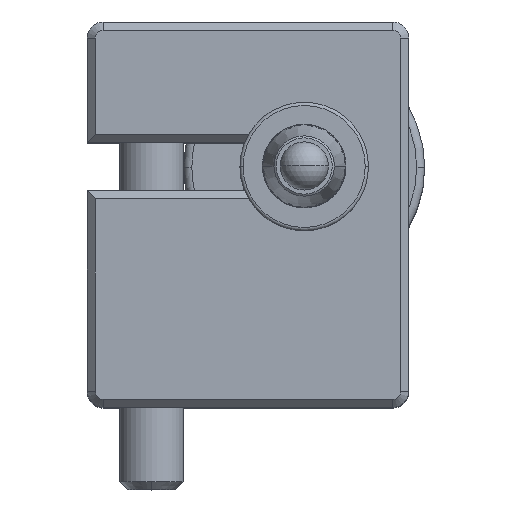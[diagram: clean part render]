
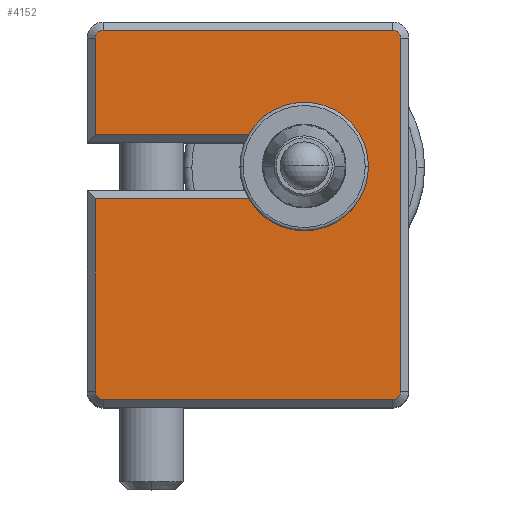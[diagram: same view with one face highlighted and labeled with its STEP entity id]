
A CAD part, top view. The second image highlights one B-rep face of the part: STEP entity #4152.
In plain terms, the highlighted planar face has unit normal (0, 0, 1).
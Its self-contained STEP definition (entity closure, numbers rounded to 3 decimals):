
#47 = DIRECTION ( 'NONE',  ( 0., 0., 1. ) ) ;
#332 = CARTESIAN_POINT ( 'NONE',  ( 18., 411., 182.1 ) ) ;
#424 = CIRCLE ( 'NONE', #14240, 0.5 ) ;
#705 = ORIENTED_EDGE ( 'NONE', *, *, #6357, .F. ) ;
#915 = CARTESIAN_POINT ( 'NONE',  ( 35., 425., 182.1 ) ) ;
#1032 = ORIENTED_EDGE ( 'NONE', *, *, #11413, .F. ) ;
#1307 = EDGE_CURVE ( 'NONE', #2408, #10596, #424, .T. ) ;
#1436 = CARTESIAN_POINT ( 'NONE',  ( 18., 433., 182.1 ) ) ;
#1452 = DIRECTION ( 'NONE',  ( 1., 0., 0. ) ) ;
#1792 = ORIENTED_EDGE ( 'NONE', *, *, #7247, .F. ) ;
#1843 = DIRECTION ( 'NONE',  ( 0., -1., 0. ) ) ;
#1950 = CARTESIAN_POINT ( 'NONE',  ( 27.536, 427., 182.1 ) ) ;
#2059 = DIRECTION ( 'NONE',  ( 0., 0., -1. ) ) ;
#2240 = VECTOR ( 'NONE', #11130, 1000. ) ;
#2252 = AXIS2_PLACEMENT_3D ( 'NONE', #7403, #3583, #12294 ) ;
#2408 = VERTEX_POINT ( 'NONE', #1436 ) ;
#2632 = CARTESIAN_POINT ( 'NONE',  ( 18.5, 433.5, 182.1 ) ) ;
#2801 = CIRCLE ( 'NONE', #12865, 4. ) ;
#2862 = CARTESIAN_POINT ( 'NONE',  ( 37., 411., 182.1 ) ) ;
#2901 = EDGE_CURVE ( 'NONE', #15682, #10190, #4900, .T. ) ;
#2914 = LINE ( 'NONE', #11791, #16020 ) ;
#2954 = CARTESIAN_POINT ( 'NONE',  ( 18.5, 410.5, 182.1 ) ) ;
#2964 = VERTEX_POINT ( 'NONE', #9934 ) ;
#3054 = CARTESIAN_POINT ( 'NONE',  ( 27.536, 427., 182.1 ) ) ;
#3188 = ORIENTED_EDGE ( 'NONE', *, *, #12082, .F. ) ;
#3202 = VERTEX_POINT ( 'NONE', #15828 ) ;
#3228 = EDGE_CURVE ( 'NONE', #11337, #12783, #8340, .T. ) ;
#3297 = CARTESIAN_POINT ( 'NONE',  ( 27.5, 423.591, 182.1 ) ) ;
#3507 = CARTESIAN_POINT ( 'NONE',  ( 18.5, 433., 182.1 ) ) ;
#3583 = DIRECTION ( 'NONE',  ( 0., 0., -1. ) ) ;
#3625 = ORIENTED_EDGE ( 'NONE', *, *, #5274, .F. ) ;
#3777 = CARTESIAN_POINT ( 'NONE',  ( 36.5, 433.5, 182.1 ) ) ;
#4152 = ADVANCED_FACE ( 'NONE', ( #4799 ), #8523, .T. ) ;
#4358 = CARTESIAN_POINT ( 'NONE',  ( 37., 433., 182.1 ) ) ;
#4799 = FACE_OUTER_BOUND ( 'NONE', #8474, .T. ) ;
#4900 = CIRCLE ( 'NONE', #10715, 0.5 ) ;
#5115 = VECTOR ( 'NONE', #1843, 1000. ) ;
#5274 = EDGE_CURVE ( 'NONE', #9885, #2964, #7767, .T. ) ;
#5487 = CARTESIAN_POINT ( 'NONE',  ( 31., 425., 182.1 ) ) ;
#5604 = ORIENTED_EDGE ( 'NONE', *, *, #15758, .F. ) ;
#5719 = DIRECTION ( 'NONE',  ( 1., 0., 0. ) ) ;
#5752 = VERTEX_POINT ( 'NONE', #3777 ) ;
#6166 = DIRECTION ( 'NONE',  ( 0., 0., -1. ) ) ;
#6209 = CARTESIAN_POINT ( 'NONE',  ( 22.768, 423., 182.1 ) ) ;
#6233 = ORIENTED_EDGE ( 'NONE', *, *, #11231, .F. ) ;
#6239 = CARTESIAN_POINT ( 'NONE',  ( 18., 427., 182.1 ) ) ;
#6356 = EDGE_CURVE ( 'NONE', #9868, #7775, #11684, .T. ) ;
#6357 = EDGE_CURVE ( 'NONE', #10596, #5752, #13757, .T. ) ;
#6906 = ORIENTED_EDGE ( 'NONE', *, *, #3228, .T. ) ;
#6978 = VECTOR ( 'NONE', #1452, 1000. ) ;
#7139 = DIRECTION ( 'NONE',  ( 1., 0., 0. ) ) ;
#7159 = LINE ( 'NONE', #13707, #2240 ) ;
#7203 = DIRECTION ( 'NONE',  ( 0., -1., 0. ) ) ;
#7247 = EDGE_CURVE ( 'NONE', #3202, #15682, #13234, .T. ) ;
#7403 = CARTESIAN_POINT ( 'NONE',  ( 36.5, 433., 182.1 ) ) ;
#7603 = CIRCLE ( 'NONE', #11840, 4. ) ;
#7767 = CIRCLE ( 'NONE', #13322, 0.5 ) ;
#7775 = VERTEX_POINT ( 'NONE', #8724 ) ;
#8273 = CARTESIAN_POINT ( 'NONE',  ( 18., 427., 182.1 ) ) ;
#8340 = B_SPLINE_CURVE_WITH_KNOTS ( 'NONE', 2,
 ( #8273, #13330, #1950 ),
 .UNSPECIFIED., .F., .F.,
 ( 3, 3 ),
 ( 0., 1.111 ),
 .UNSPECIFIED. ) ;
#8365 = DIRECTION ( 'NONE',  ( 0., 0., -1. ) ) ;
#8474 = EDGE_LOOP ( 'NONE', ( #5604, #3625, #6233, #14634, #1792, #15908, #705, #13088, #1032, #6906, #11362, #3188, #10271 ) ) ;
#8523 = PLANE ( 'NONE',  #12017 ) ;
#8699 = CARTESIAN_POINT ( 'NONE',  ( 18., 423., 182.1 ) ) ;
#8724 = CARTESIAN_POINT ( 'NONE',  ( 27.536, 423., 182.1 ) ) ;
#9173 = CARTESIAN_POINT ( 'NONE',  ( 18.5, 433.5, 182.1 ) ) ;
#9683 = CARTESIAN_POINT ( 'NONE',  ( 18.5, 411., 182.1 ) ) ;
#9868 = VERTEX_POINT ( 'NONE', #11590 ) ;
#9885 = VERTEX_POINT ( 'NONE', #2954 ) ;
#9934 = CARTESIAN_POINT ( 'NONE',  ( 18., 411., 182.1 ) ) ;
#10190 = VERTEX_POINT ( 'NONE', #14384 ) ;
#10271 = ORIENTED_EDGE ( 'NONE', *, *, #6356, .F. ) ;
#10287 = DIRECTION ( 'NONE',  ( 1., 0., 0. ) ) ;
#10596 = VERTEX_POINT ( 'NONE', #9173 ) ;
#10650 = LINE ( 'NONE', #332, #14517 ) ;
#10715 = AXIS2_PLACEMENT_3D ( 'NONE', #13438, #2059, #7139 ) ;
#11130 = DIRECTION ( 'NONE',  ( -1., 0., 0. ) ) ;
#11231 = EDGE_CURVE ( 'NONE', #10190, #9885, #7159, .T. ) ;
#11266 = CARTESIAN_POINT ( 'NONE',  ( 27.536, 423., 182.1 ) ) ;
#11337 = VERTEX_POINT ( 'NONE', #6239 ) ;
#11362 = ORIENTED_EDGE ( 'NONE', *, *, #16408, .F. ) ;
#11402 = CARTESIAN_POINT ( 'NONE',  ( 31., 425., 182.1 ) ) ;
#11413 = EDGE_CURVE ( 'NONE', #11337, #2408, #2914, .T. ) ;
#11590 = CARTESIAN_POINT ( 'NONE',  ( 18., 423., 182.1 ) ) ;
#11648 = DIRECTION ( 'NONE',  ( 0., 0., 1. ) ) ;
#11684 = B_SPLINE_CURVE_WITH_KNOTS ( 'NONE', 2,
 ( #8699, #6209, #11266 ),
 .UNSPECIFIED., .F., .F.,
 ( 3, 3 ),
 ( 0., 1.111 ),
 .UNSPECIFIED. ) ;
#11704 = DIRECTION ( 'NONE',  ( 0., 1., 0. ) ) ;
#11791 = CARTESIAN_POINT ( 'NONE',  ( 18., 427., 182.1 ) ) ;
#11840 = AXIS2_PLACEMENT_3D ( 'NONE', #5487, #47, #10287 ) ;
#11966 = VERTEX_POINT ( 'NONE', #915 ) ;
#12017 = AXIS2_PLACEMENT_3D ( 'NONE', #3297, #13339, #5719 ) ;
#12082 = EDGE_CURVE ( 'NONE', #7775, #11966, #2801, .T. ) ;
#12238 = EDGE_CURVE ( 'NONE', #5752, #3202, #15523, .T. ) ;
#12294 = DIRECTION ( 'NONE',  ( 0., 1., 0. ) ) ;
#12783 = VERTEX_POINT ( 'NONE', #3054 ) ;
#12865 = AXIS2_PLACEMENT_3D ( 'NONE', #11402, #11648, #15229 ) ;
#13088 = ORIENTED_EDGE ( 'NONE', *, *, #1307, .F. ) ;
#13234 = LINE ( 'NONE', #4358, #5115 ) ;
#13322 = AXIS2_PLACEMENT_3D ( 'NONE', #9683, #8365, #7203 ) ;
#13330 = CARTESIAN_POINT ( 'NONE',  ( 22.768, 427., 182.1 ) ) ;
#13339 = DIRECTION ( 'NONE',  ( 0., 0., 1. ) ) ;
#13438 = CARTESIAN_POINT ( 'NONE',  ( 36.5, 411., 182.1 ) ) ;
#13707 = CARTESIAN_POINT ( 'NONE',  ( 36.5, 410.5, 182.1 ) ) ;
#13757 = LINE ( 'NONE', #2632, #6978 ) ;
#13887 = DIRECTION ( 'NONE',  ( -1., 0., 0. ) ) ;
#14240 = AXIS2_PLACEMENT_3D ( 'NONE', #3507, #6166, #13887 ) ;
#14384 = CARTESIAN_POINT ( 'NONE',  ( 36.5, 410.5, 182.1 ) ) ;
#14517 = VECTOR ( 'NONE', #15716, 1000. ) ;
#14634 = ORIENTED_EDGE ( 'NONE', *, *, #2901, .F. ) ;
#15229 = DIRECTION ( 'NONE',  ( -0.866, -0.5, 0. ) ) ;
#15523 = CIRCLE ( 'NONE', #2252, 0.5 ) ;
#15682 = VERTEX_POINT ( 'NONE', #2862 ) ;
#15716 = DIRECTION ( 'NONE',  ( 0., 1., 0. ) ) ;
#15758 = EDGE_CURVE ( 'NONE', #2964, #9868, #10650, .T. ) ;
#15828 = CARTESIAN_POINT ( 'NONE',  ( 37., 433., 182.1 ) ) ;
#15908 = ORIENTED_EDGE ( 'NONE', *, *, #12238, .F. ) ;
#16020 = VECTOR ( 'NONE', #11704, 1000. ) ;
#16408 = EDGE_CURVE ( 'NONE', #11966, #12783, #7603, .T. ) ;
